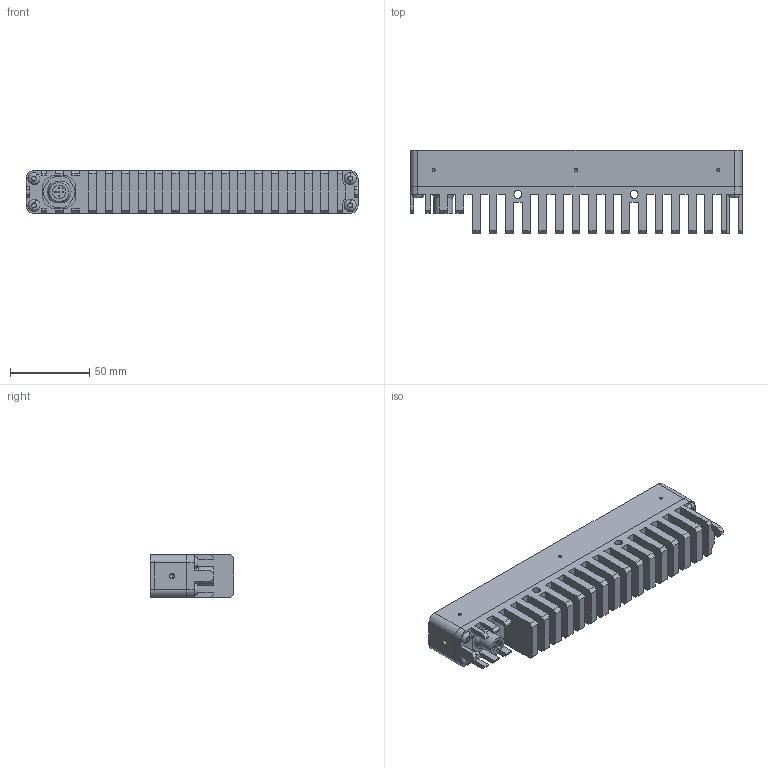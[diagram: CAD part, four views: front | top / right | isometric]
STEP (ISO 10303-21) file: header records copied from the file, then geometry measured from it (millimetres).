
FILE_DESCRIPTION (( 'STEP AP214' ), '1' );
FILE_NAME ('03567.00 Basisbaugruppe MBL-0220 + 03569.00 Kühlkörper f. MBL-0220.STEP', '2023-03-27T07:34:07', ( '' ), ( '' ), 'SwSTEP 2.0', 'SolidWorks 2022', '' );
FILE_SCHEMA (( 'AUTOMOTIVE_DESIGN' ));
Length unit declared in the file: millimetre
Products named in the file (7): 03573.00 Deckscheibe MBL-0220 (klar, mit Blende); 03569.00 Kühlkörper f. MBL-0220; 03561.00 Steckerblech MBL-02xx (M12 Stecker); Linsenkopfschraube M4x10 ISO7380; 03571.00 Gehäuse MBL-0220; 03567.00 Basisbaugruppe MBL-0220 + 03569.00 Kühlkörper f. MBL-0220; 00436.00 Einbaustecker M12x1 5pol
Assembly tree (9 placements, depth 2):
  03567.00 Basisbaugruppe MBL-0220 + 03569.00 Kühlkörper f. MBL-0220
    03571.00 Gehäuse MBL-0220
    03573.00 Deckscheibe MBL-0220 (klar, mit Blende)
    03561.00 Steckerblech MBL-02xx (M12 Stecker)
    00436.00 Einbaustecker M12x1 5pol
    03569.00 Kühlkörper f. MBL-0220
    Linsenkopfschraube M4x10 ISO7380  x4
Bounding box: 210 x 53 x 27 mm (x, y, z)
Volume: 166568.8 mm3; surface area: 94213.1 mm2
Topology: 10 solids, 10 shells, 534 faces, 1426 edges, 920 vertices
Faces by surface type: plane 338, cylinder 150, cone 34, torus 8, sphere 4
Entity records: 16033 total; most frequent: CARTESIAN_POINT 2690, ORIENTED_EDGE 2596, DIRECTION 2592, EDGE_CURVE 1298, VECTOR 992, LINE 992, VERTEX_POINT 854, AXIS2_PLACEMENT_3D 800
